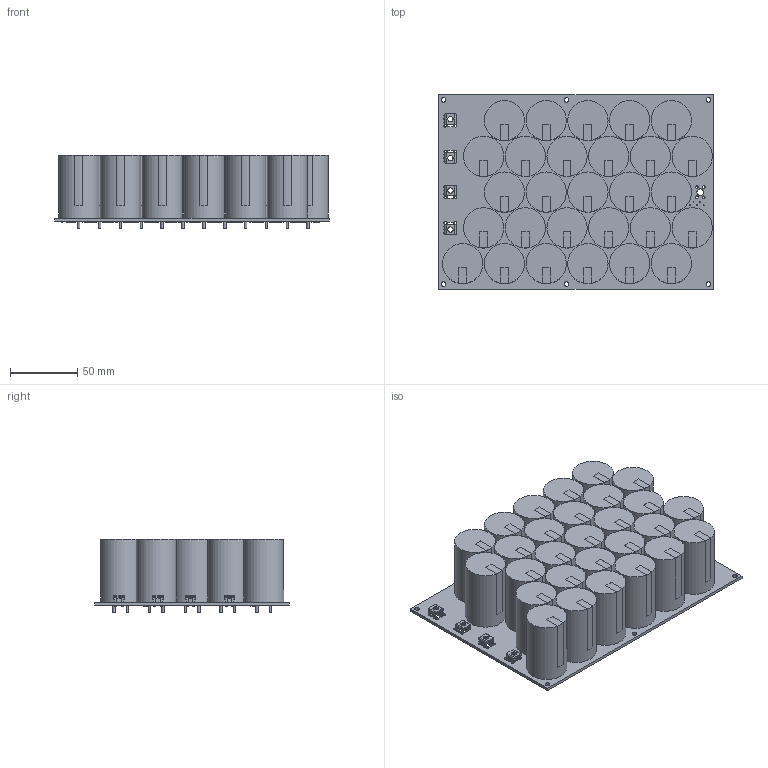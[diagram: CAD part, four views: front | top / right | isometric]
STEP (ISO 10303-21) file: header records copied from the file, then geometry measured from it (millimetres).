
FILE_DESCRIPTION(('Open CASCADE Model'),'2;1');
FILE_NAME('Open CASCADE Shape Model','2021-07-26T12:14:48',('Author'),( 'Open CASCADE'),'Open CASCADE STEP processor 6.8','Open CASCADE 6.8' ,'Unknown');
FILE_SCHEMA(('AUTOMOTIVE_DESIGN { 1 0 10303 214 1 1 1 1 }'));
Length unit declared in the file: millimetre
Products named in the file (64): PCB; BoardSCAP28_revC; Open CASCADE STEP translator 6.8 2.1.1; C3SCAP28_revC; CAP_B45_NCH; C20SCAP28_revC; C14SCAP28_revC; C9SCAP28_revC; C26SCAP28_revC; C5SCAP28_revC; C4SCAP28_revC; C1SCAP28_revC; C2SCAP28_revC; C22SCAP28_revC; C11SCAP28_revC; C16SCAP28_revC; C28SCAP28_revC; C21SCAP28_revC; C15SCAP28_revC; C10SCAP28_revC; C27SCAP28_revC; C18SCAP28_revC; C12SCAP28_revC; C7SCAP28_revC; C24SCAP28_revC; C19SCAP28_revC; C17SCAP28_revC; C13SCAP28_revC; C8SCAP28_revC; C25SCAP28_revC; C6SCAP28_revC; C23SCAP28_revC; R22SCAP28_revC; User_Library-res2512; User_Library-res2512_pad_2512___; User_Library-res2512_res2512_body___; R24SCAP28_revC; R1SCAP28_revC; R3SCAP28_revC; R5SCAP28_revC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
Assembly tree (116 placements, depth 4):
  PCB
    BoardSCAP28_revC
      Open CASCADE STEP translator 6.8 2.1.1
    C3SCAP28_revC
      CAP_B45_NCH
    C20SCAP28_revC
      CAP_B45_NCH
    C14SCAP28_revC
      CAP_B45_NCH
    C9SCAP28_revC
      CAP_B45_NCH
    C26SCAP28_revC
      CAP_B45_NCH
    C5SCAP28_revC
      CAP_B45_NCH
    C4SCAP28_revC
      CAP_B45_NCH
    C1SCAP28_revC
      CAP_B45_NCH
    C2SCAP28_revC
      CAP_B45_NCH
    C22SCAP28_revC
      CAP_B45_NCH
    C11SCAP28_revC
      CAP_B45_NCH
    C16SCAP28_revC
      CAP_B45_NCH
    C28SCAP28_revC
      CAP_B45_NCH
    C21SCAP28_revC
      CAP_B45_NCH
    C15SCAP28_revC
      CAP_B45_NCH
    C10SCAP28_revC
      CAP_B45_NCH
    C27SCAP28_revC
      CAP_B45_NCH
    C18SCAP28_revC
      CAP_B45_NCH
    C12SCAP28_revC
      CAP_B45_NCH
    C7SCAP28_revC
      CAP_B45_NCH
    C24SCAP28_revC
      CAP_B45_NCH
    C19SCAP28_revC
      CAP_B45_NCH
    C17SCAP28_revC
      CAP_B45_NCH
    C13SCAP28_revC
      CAP_B45_NCH
    C8SCAP28_revC
      CAP_B45_NCH
    C25SCAP28_revC
      CAP_B45_NCH
    C6SCAP28_revC
      CAP_B45_NCH
    C23SCAP28_revC
      CAP_B45_NCH
    R22SCAP28_revC
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Bounding box: 205.1 x 145.1 x 55.11 mm (x, y, z)
Volume: 997075 mm3; surface area: 247818.9 mm2
Topology: 189 solids, 189 shells, 2046 faces, 4812 edges, 3192 vertices
Faces by surface type: plane 1542, cylinder 384, bspline 120
Full cylindrical faces by diameter (mm): 0.7 x89, 1.854 x56, 2 x92, 3.45 x6, 5 x1, 29.997 x28
Entity records: 13456 total; most frequent: CARTESIAN_POINT 2251, DIRECTION 2148, ORIENTED_EDGE 1778, EDGE_CURVE 889, AXIS2_PLACEMENT_3D 843, FACE_BOUND 705, EDGE_LOOP 705, VERTEX_POINT 592
